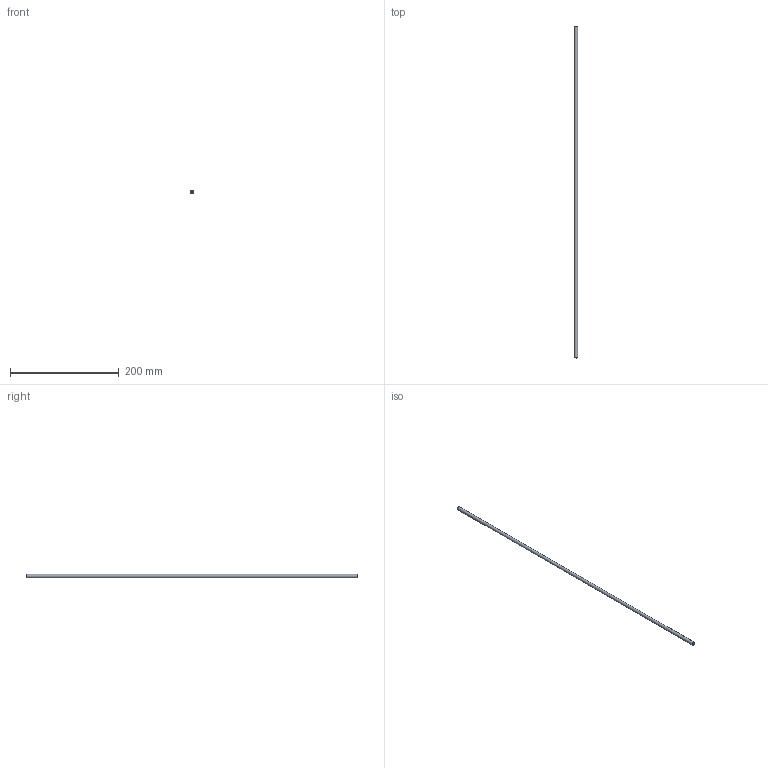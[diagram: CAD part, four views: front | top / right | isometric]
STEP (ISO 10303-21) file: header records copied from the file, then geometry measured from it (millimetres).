
FILE_DESCRIPTION(/* description */ (''),/* implementation_level */ '2;1');
FILE_NAME(/* name */ 'C:/Users/drich/Desktop/250T-24 v1.step',/* time_stamp */ '2019-12-27T17:28:34-06:00',/* author */ (''),/* organization */ (''),/* preprocessor_version */ 'ST-DEVELOPER v18',/* originating_system */ 'Autodesk Translation Framework v8.12.0.6',/* authorisation */ '');
FILE_SCHEMA (('AUTOMOTIVE_DESIGN { 1 0 10303 214 3 1 1 }'));
Length unit declared in the file: inch
Products named in the file (1): 250T-24
Bounding box: 6.24 x 609.6 x 6.24 mm (x, y, z)
Volume: 9734.7 mm3; surface area: 20253.4 mm2
Topology: 1 solids, 1 shells, 6 faces, 14 edges, 10 vertices
Faces by surface type: cone 2, cylinder 2, plane 2
Full cylindrical faces by diameter (mm): 4.318 x1, 6.243 x1
Entity records: 230 total; most frequent: DIRECTION 38, CARTESIAN_POINT 31, ORIENTED_EDGE 28, AXIS2_PLACEMENT_3D 17, EDGE_CURVE 14, CIRCLE 10, VERTEX_POINT 10, EDGE_LOOP 8
